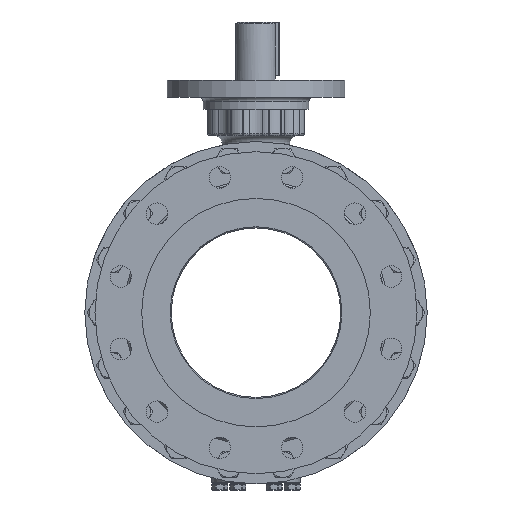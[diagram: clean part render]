
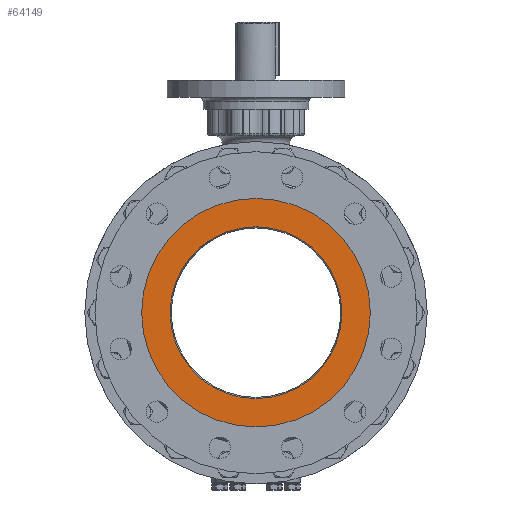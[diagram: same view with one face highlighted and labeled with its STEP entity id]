
A CAD part, left-side view. The second image highlights one B-rep face of the part: STEP entity #64149.
In plain terms, the highlighted planar face has unit normal (-1, 0, 0).
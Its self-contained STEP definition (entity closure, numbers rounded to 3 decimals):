
#2954=CARTESIAN_POINT('',(-251.,0.,0.));
#2955=DIRECTION('',(1.,0.,0.));
#2956=DIRECTION('',(0.,0.,1.));
#2957=AXIS2_PLACEMENT_3D('',#2954,#2955,#2956);
#2959=CARTESIAN_POINT('',(-251.,0.,0.));
#2960=DIRECTION('',(-1.,0.,0.));
#2961=DIRECTION('',(0.,0.,1.));
#2962=AXIS2_PLACEMENT_3D('',#2959,#2960,#2961);
#2964=CARTESIAN_POINT('',(-251.,0.,0.));
#2965=DIRECTION('',(1.,0.,0.));
#2966=DIRECTION('',(0.,0.,1.));
#2967=AXIS2_PLACEMENT_3D('',#2964,#2965,#2966);
#2969=CARTESIAN_POINT('',(-251.,0.,0.));
#2970=DIRECTION('',(-1.,0.,0.));
#2971=DIRECTION('',(0.,0.,1.));
#2972=AXIS2_PLACEMENT_3D('',#2969,#2970,#2971);
#54419=CARTESIAN_POINT('',(-251.,0.,101.35));
#54421=VERTEX_POINT('',#54419);
#54427=CARTESIAN_POINT('',(-251.,0.,-101.35));
#54429=VERTEX_POINT('',#54427);
#54546=CARTESIAN_POINT('',(-251.,0.,134.85));
#54548=VERTEX_POINT('',#54546);
#54550=CARTESIAN_POINT('',(-251.,0.,-134.85));
#54552=VERTEX_POINT('',#54550);
#64134=CARTESIAN_POINT('',(-251.,0.,0.));
#64135=DIRECTION('',(-1.,0.,0.));
#64136=DIRECTION('',(0.,0.,-1.));
#64137=AXIS2_PLACEMENT_3D('',#64134,#64135,#64136);
#64138=PLANE('',#64137);
#64139=ORIENTED_EDGE('',*,*,#64127,.F.);
#64140=ORIENTED_EDGE('',*,*,#64116,.T.);
#64141=EDGE_LOOP('',(#64139,#64140));
#64142=FACE_OUTER_BOUND('',#64141,.F.);
#64144=ORIENTED_EDGE('',*,*,#64143,.F.);
#64146=ORIENTED_EDGE('',*,*,#64145,.T.);
#64147=EDGE_LOOP('',(#64144,#64146));
#64148=FACE_BOUND('',#64147,.F.);
#64149=ADVANCED_FACE('',(#64142,#64148),#64138,.T.);
#2958=CIRCLE('',#2957,134.85);
#2963=CIRCLE('',#2962,134.85);
#2968=CIRCLE('',#2967,101.35);
#2973=CIRCLE('',#2972,101.35);
#64116=EDGE_CURVE('',#54548,#54552,#2958,.T.);
#64127=EDGE_CURVE('',#54548,#54552,#2963,.T.);
#64143=EDGE_CURVE('',#54421,#54429,#2968,.T.);
#64145=EDGE_CURVE('',#54421,#54429,#2973,.T.);
